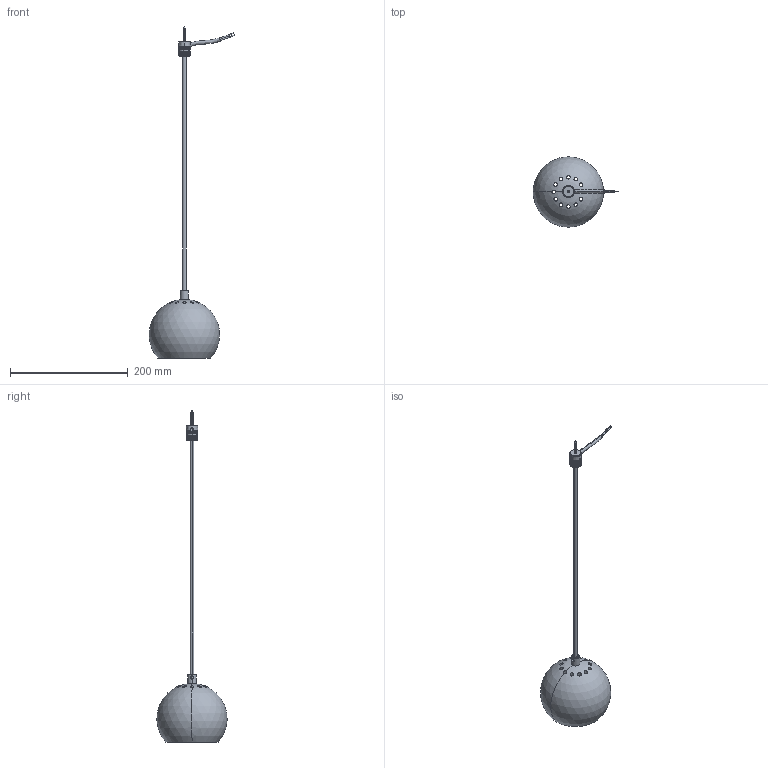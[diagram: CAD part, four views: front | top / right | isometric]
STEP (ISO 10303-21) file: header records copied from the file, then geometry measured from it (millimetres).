
FILE_DESCRIPTION((''),'2;1');
FILE_NAME('ASM0001','2023-10-12T16:31:09',('Administrator'),(''),'CREO PARAMETRIC BY PTC INC, 2019010','CREO PARAMETRIC BY PTC INC, 2019010','');
FILE_SCHEMA(('CONFIG_CONTROL_DESIGN'));
Products named in the file (51): _X2_56FE5757_X0__09_A_1; TMP_DWG_1_11_A_1; TMP_DWG_123_A_1; M40001_A_1; _X2_56FE5757_X0__04_A_1; M10_____10001_A_1; M10____0001_A_1; _X2_56FE5757_X0__08_A_1; _X2_56FE5757_X0__07_A_1; TMP_DWG_4_1_A_1; TMP_DWG_44_A_1; BREP_1_1; BREP_2_1; BREP_3_1; BREP_4_1; BREP_5_1; BREP_6_1; BREP_7_1; BREP_8_1; BREP_9_1; BREP_10_1; BREP_11_1; BREP_12_1; BREP_13_1; BREP_14_1; BREP_15_1; BREP_16_1; BREP_17_1; BREP_18_1; BREP_19_1; BREP_20_1; BREP_21_1; BREP_22_1; BREP_23_1; BREP_24_1; BREP_25_1; BREP_26_1; BREP_27_1; BREP_28_1; BREP_29_1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
Assembly tree (50 placements, depth 6):
  ASM0001
    DOCUMENT_A_1
      M40001_A_1
        TMP_DWG_123_A_1
          TMP_DWG_1_11_A_1
            _X2_56FE5757_X0__09_A_1
      M10____0001_A_1
        M10_____10001_A_1
          _X2_56FE5757_X0__04_A_1
      _X2_56FE5757_X0__08_A_1
      TMP_DWG_44_A_1
        TMP_DWG_4_1_A_1
          _X2_56FE5757_X0__07_A_1
      BREP_1_1
      BREP_2_1
      BREP_3_1
      BREP_4_1
      BREP_5_1
      BREP_6_1
      BREP_7_1
      BREP_8_1
      BREP_9_1
      BREP_10_1
      BREP_11_1
      BREP_12_1
      BREP_13_1
      BREP_14_1
      BREP_15_1
      BREP_16_1
      BREP_17_1
      BREP_18_1
      BREP_19_1
      BREP_20_1
      BREP_21_1
      BREP_22_1
      BREP_23_1
      BREP_24_1
      BREP_25_1
      BREP_26_1
      BREP_27_1
      BREP_28_1
      BREP_29_1
      BREP_30_1
      BREP_31_1
      BREP_32_1
      BREP_33_1
      BREP_34_1
      BREP_35_1
      BREP_36_1
      BREP_37_1
      BREP_38
Bounding box: 145.71 x 119.78 x 565.08 mm (x, y, z)
Volume: 436914.4 mm3; surface area: 88384.3 mm2
Topology: 16 solids, 222 shells, 944 faces, 3505 edges, 2789 vertices
Faces by surface type: plane 285, cylinder 262, cone 231, extrusion 80, bspline 70, sphere 12, torus 4
Entity records: 69793 total; most frequent: CARTESIAN_POINT 42207, ORIENTED_EDGE 5604, DIRECTION 4483, EDGE_CURVE 3501, VERTEX_POINT 2788, B_SPLINE_CURVE_WITH_KNOTS 1820, AXIS2_PLACEMENT_3D 1702, VECTOR 1079
